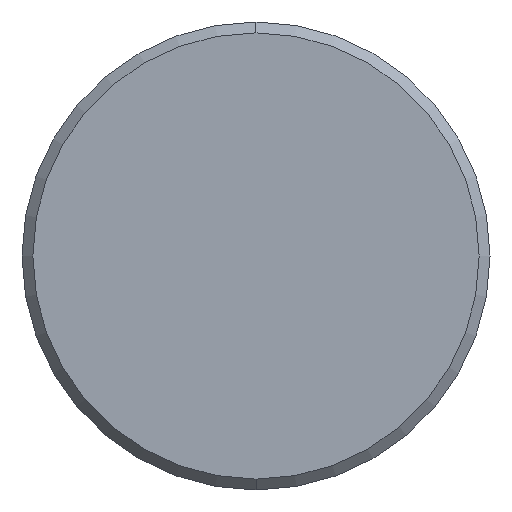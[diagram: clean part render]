
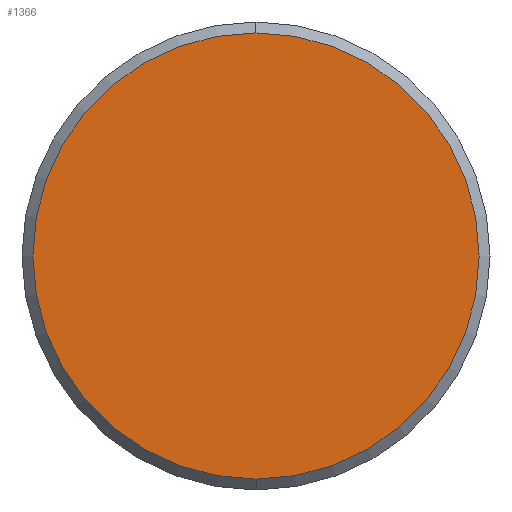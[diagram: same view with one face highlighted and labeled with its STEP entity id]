
A CAD part, left-side view. The second image highlights one B-rep face of the part: STEP entity #1366.
In plain terms, the highlighted planar face has unit normal (-1, 0, 0).
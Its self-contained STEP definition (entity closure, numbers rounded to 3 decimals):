
#5 = AXIS2_PLACEMENT_3D ( 'NONE', #1245, #1279, #1229 ) ;
#45 = CIRCLE ( 'NONE', #48, 20.5 ) ;
#48 = AXIS2_PLACEMENT_3D ( 'NONE', #334, #540, #446 ) ;
#79 = EDGE_CURVE ( 'NONE', #751, #766, #45, .T. ) ;
#166 = EDGE_CURVE ( 'NONE', #766, #751, #1509, .T. ) ;
#334 = CARTESIAN_POINT ( 'NONE',  ( 0., 0., 0. ) ) ;
#446 = DIRECTION ( 'NONE',  ( 0., 0., -1. ) ) ;
#538 = ORIENTED_EDGE ( 'NONE', *, *, #166, .F. ) ;
#540 = DIRECTION ( 'NONE',  ( 1., 0., 0. ) ) ;
#647 = EDGE_LOOP ( 'NONE', ( #538, #648 ) ) ;
#648 = ORIENTED_EDGE ( 'NONE', *, *, #79, .F. ) ;
#751 = VERTEX_POINT ( 'NONE', #1197 ) ;
#766 = VERTEX_POINT ( 'NONE', #1189 ) ;
#841 = CARTESIAN_POINT ( 'NONE',  ( 0., 0., 0. ) ) ;
#910 = DIRECTION ( 'NONE',  ( 1., 0., 0. ) ) ;
#932 = DIRECTION ( 'NONE',  ( 0., 0., -1. ) ) ;
#1189 = CARTESIAN_POINT ( 'NONE',  ( 0., 0., -20.5 ) ) ;
#1197 = CARTESIAN_POINT ( 'NONE',  ( 0., 0., 20.5 ) ) ;
#1229 = DIRECTION ( 'NONE',  ( 0., 0., -1. ) ) ;
#1244 = PLANE ( 'NONE',  #5 ) ;
#1245 = CARTESIAN_POINT ( 'NONE',  ( 0., -21.758, 21.758 ) ) ;
#1259 = FACE_OUTER_BOUND ( 'NONE', #647, .T. ) ;
#1279 = DIRECTION ( 'NONE',  ( 1., 0., 0. ) ) ;
#1366 = ADVANCED_FACE ( 'NONE', ( #1259 ), #1244, .F. ) ;
#1509 = CIRCLE ( 'NONE', #1523, 20.5 ) ;
#1523 = AXIS2_PLACEMENT_3D ( 'NONE', #841, #910, #932 ) ;
